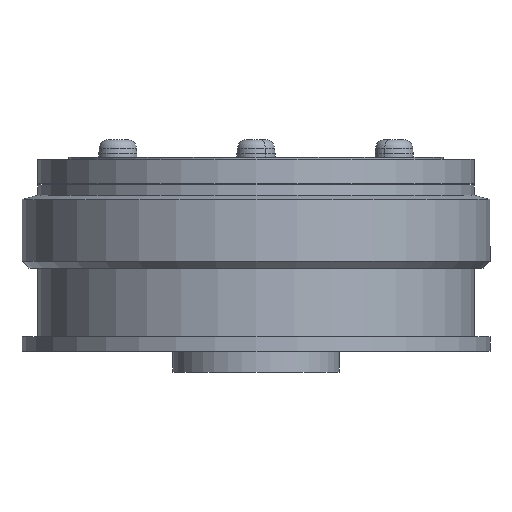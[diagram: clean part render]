
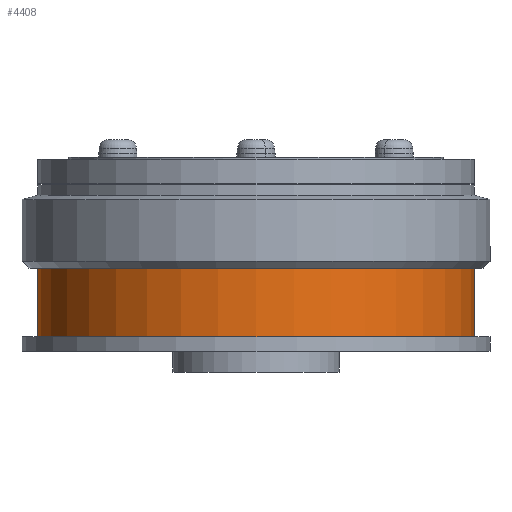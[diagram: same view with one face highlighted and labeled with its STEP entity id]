
A CAD part, front view. The second image highlights one B-rep face of the part: STEP entity #4408.
In plain terms, the highlighted cylindrical face has radius 31.5 mm (diameter 63 mm), a partial arc.
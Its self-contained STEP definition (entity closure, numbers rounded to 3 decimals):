
#52 = EDGE_CURVE ( 'NONE', #468, #464, #4314, .T. ) ;
#53 = EDGE_CURVE ( 'NONE', #462, #451, #4315, .T. ) ;
#451 = VERTEX_POINT ( 'NONE', #679 ) ;
#462 = VERTEX_POINT ( 'NONE', #674 ) ;
#464 = VERTEX_POINT ( 'NONE', #672 ) ;
#468 = VERTEX_POINT ( 'NONE', #668 ) ;
#582 = FACE_OUTER_BOUND ( 'NONE', #5178, .T. ) ;
#590 = CYLINDRICAL_SURFACE ( 'NONE', #4729, 31.5 ) ;
#668 = CARTESIAN_POINT ( 'NONE',  ( 31.5, 0., 2.1 ) ) ;
#672 = CARTESIAN_POINT ( 'NONE',  ( 31.5, 0., 12. ) ) ;
#674 = CARTESIAN_POINT ( 'NONE',  ( -31.5, 0., 2.1 ) ) ;
#679 = CARTESIAN_POINT ( 'NONE',  ( -31.5, 0., 12. ) ) ;
#975 = CIRCLE ( 'NONE', #4746, 31.5 ) ;
#976 = CIRCLE ( 'NONE', #4743, 31.5 ) ;
#1630 = CARTESIAN_POINT ( 'NONE',  ( 0., 0., 2.1 ) ) ;
#1631 = DIRECTION ( 'NONE',  ( 0., 0., 1. ) ) ;
#1639 = DIRECTION ( 'NONE',  ( 1., 0., 0. ) ) ;
#2839 = EDGE_CURVE ( 'NONE', #462, #468, #975, .T. ) ;
#2840 = EDGE_CURVE ( 'NONE', #451, #464, #976, .T. ) ;
#3009 = ORIENTED_EDGE ( 'NONE', *, *, #2840, .F. ) ;
#3013 = ORIENTED_EDGE ( 'NONE', *, *, #53, .F. ) ;
#3016 = ORIENTED_EDGE ( 'NONE', *, *, #2839, .T. ) ;
#3022 = ORIENTED_EDGE ( 'NONE', *, *, #52, .T. ) ;
#3195 = CARTESIAN_POINT ( 'NONE',  ( 0., 0., 2.1 ) ) ;
#3196 = DIRECTION ( 'NONE',  ( 0., 0., 1. ) ) ;
#3197 = DIRECTION ( 'NONE',  ( 1., 0., 0. ) ) ;
#3198 = CARTESIAN_POINT ( 'NONE',  ( 0., 0., 12. ) ) ;
#3199 = DIRECTION ( 'NONE',  ( 0., 0., 1. ) ) ;
#3200 = DIRECTION ( 'NONE',  ( -1., 0., 0. ) ) ;
#4306 = VECTOR ( 'NONE', #4894, 1000. ) ;
#4309 = VECTOR ( 'NONE', #4893, 1000. ) ;
#4314 = LINE ( 'NONE', #4871, #4309 ) ;
#4315 = LINE ( 'NONE', #4886, #4306 ) ;
#4408 = ADVANCED_FACE ( 'NONE', ( #582 ), #590, .T. ) ;
#4729 = AXIS2_PLACEMENT_3D ( 'NONE', #1630, #1631, #1639 ) ;
#4743 = AXIS2_PLACEMENT_3D ( 'NONE', #3198, #3199, #3200 ) ;
#4746 = AXIS2_PLACEMENT_3D ( 'NONE', #3195, #3196, #3197 ) ;
#4871 = CARTESIAN_POINT ( 'NONE',  ( 31.5, 0., 2.1 ) ) ;
#4886 = CARTESIAN_POINT ( 'NONE',  ( -31.5, 0., 2.1 ) ) ;
#4893 = DIRECTION ( 'NONE',  ( 0., 0., 1. ) ) ;
#4894 = DIRECTION ( 'NONE',  ( 0., 0., 1. ) ) ;
#5178 = EDGE_LOOP ( 'NONE', ( #3013, #3016, #3022, #3009 ) ) ;
